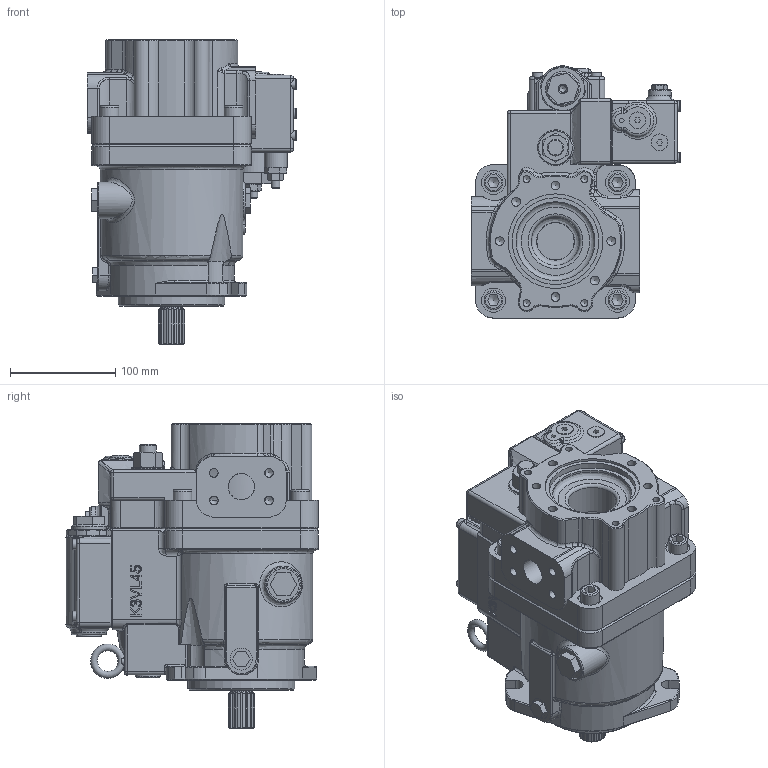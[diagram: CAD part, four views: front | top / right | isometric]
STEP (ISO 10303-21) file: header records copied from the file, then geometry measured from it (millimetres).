
FILE_DESCRIPTION((''),'2;1');
FILE_NAME('J:\Inventor\K3V, M2X\MODEL LIBRARY\K3VL45B 1ALSS LO 1-H4.stp','2008-01-14T08:43:50',('mnorman'),(''),'Autodesk Inventor 2008','Autodesk Inventor 2008','');
FILE_SCHEMA(('AUTOMOTIVE_DESIGN { 1 0 10303 214 1 1 1 1 }'));
Length unit declared in the file: millimetre
Products named in the file (1): Part1
Bounding box: 199 x 239.93 x 290 mm (x, y, z)
Volume: 5063379.6 mm3; surface area: 347408.6 mm2
Topology: 1 solids, 19 shells, 1356 faces, 3288 edges, 2025 vertices
Faces by surface type: plane 565, cylinder 316, bspline 281, cone 141, torus 42, sphere 11
Full cylindrical faces by diameter (mm): 6 x8, 6.5 x4, 8 x5, 10 x8, 11 x4, 12 x4, 16 x4, 18 x4, 21 x1, 21.3 x1, 22 x2, 24 x3, 25 x1, 26 x1, 30 x5, 32 x1, 33 x2, 35.5 x1, 36 x1, 38 x1, 46 x1, 75 x1, 82.55 x1, 90 x2, 101.6 x1, 105 x1
Entity records: 53728 total; most frequent: CARTESIAN_POINT 23862, ORIENTED_EDGE 5970, DIRECTION 5606, EDGE_CURVE 2985, AXIS2_PLACEMENT_3D 2127, VERTEX_POINT 1932, EDGE_LOOP 1647, FACE_OUTER_BOUND 1356
